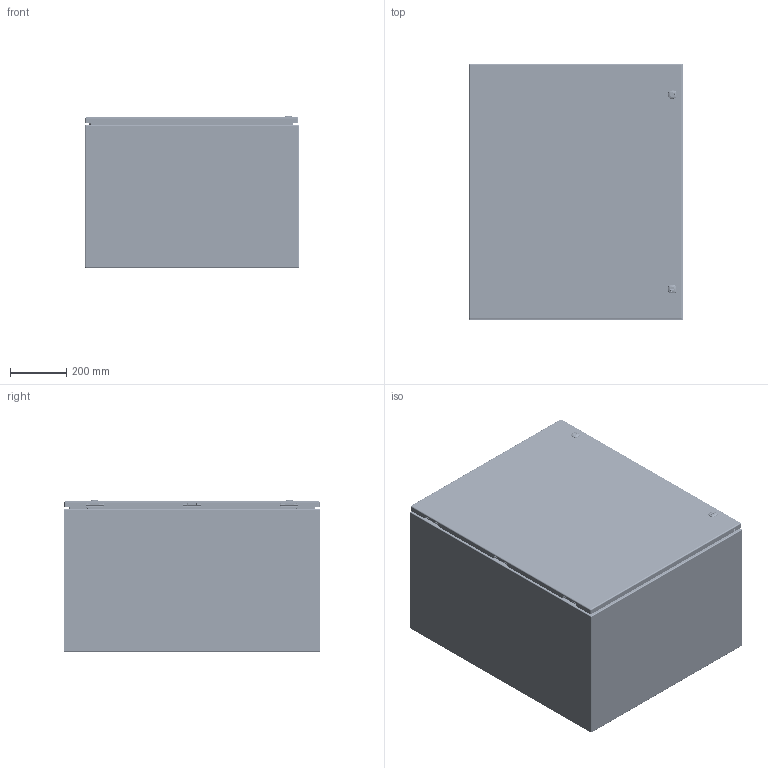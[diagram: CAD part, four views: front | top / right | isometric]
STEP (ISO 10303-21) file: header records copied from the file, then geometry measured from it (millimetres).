
FILE_DESCRIPTION(/* description */ ('5412ES 36" x 30" x 20" Assembly'),/* implementation_level */ '2;1');
FILE_NAME(/* name */ 'C:\Vault_Workspace\Inventor_Dwg\BoxCad\Result\5412ESB363020\e-mail\3D\5412ESB363020.stp',/* time_stamp */ '2022-03-19T06:24:33-04:00',/* author */ ('BoxCad'),/* organization */ (''),/* preprocessor_version */ 'ST-DEVELOPER v18.1',/* originating_system */ 'Autodesk Inventor 2020',/* authorisation */ '');
FILE_SCHEMA (('AUTOMOTIVE_DESIGN { 1 0 10303 214 3 1 1 }'));
Products named in the file (46): 5412ESB363020; 5412ESB363020B; 5412ESB363020B-P; STK-Q-16005; STUD_M6 x 16mm; STK-Q-07610; 881SP3630G; 881SP3630G-P; STK-Q-07310; 5412ESB363020C; 5412ESB363020C-P; 5412ESB363020G; STK-K-09800; STK-K-09800-2; STK-K-09800-3; STK-Q-33014; STK-Q-90398; STK-Q-40095; STK-Q-63410; STK-Q-16055; STK-Q-46020-36; STK-Q-07220-1; STK-Q-07220-2; STK-Q-07220-3; STK-Q-07220-4; STK-Q-07220-A; STK-Q-07220-B; STK-P-03820R; STK-S-00100; STK-A-880SCQ4-SL-1; STK-A-880SCQ4-SL-2; STK-Q-78110; STK-Q-78120; STK-Q-78145; STK-Q-03200; STK-Q-78125; STK-Q-78141; STK-Q-90390; STK-Q-78160; STK-Q-04050-07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
Assembly tree (97 placements, depth 4):
  5412ESB363020
    5412ESB363020B
      5412ESB363020B-P
      STK-Q-16005  x6
      STK-P-03820R
      STUD_M6 x 16mm
    STK-Q-07610  x6
    881SP3630G
      881SP3630G-P
    STK-Q-07310  x6
    5412ESB363020C
      5412ESB363020C-P
      5412ESB363020G
      STK-K-09800
        STK-Q-33014
        STK-Q-90398
        STK-Q-40095  x2
        STK-Q-63410  x2
      STK-K-09800-2
        STK-Q-33014
        STK-Q-90398
        STK-Q-40095  x2
        STK-Q-63410  x2
      STK-K-09800-3
        STK-Q-33014
        STK-Q-90398
        STK-Q-40095  x2
        STK-Q-63410  x2
      STK-Q-16055  x4
      STK-Q-46020-36  x2
      STK-Q-07220-1
        STK-Q-07220-A
        STK-Q-07220-B
      STK-Q-07220-2
        STK-Q-07220-A
        STK-Q-07220-B
      STK-Q-07220-3
        STK-Q-07220-A
        STK-Q-07220-B
      STK-Q-07220-4
        STK-Q-07220-A
        STK-Q-07220-B
      STK-P-03820R
      STK-S-00100
      STK-A-880SCQ4-SL-1
        STK-Q-78110
        STK-Q-78120
        STK-Q-78145
        STK-Q-03200
        STK-Q-78125
        STK-Q-78141
        STK-Q-90390
        STK-Q-78160
      STK-A-880SCQ4-SL-2
        STK-Q-78110
        STK-Q-78120
        STK-Q-78145
        STK-Q-03200
        STK-Q-78125
        STK-Q-78141
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Bounding box: 762.45 x 914.4 x 540.77 mm (x, y, z)
Volume: 7722196.3 mm3; surface area: 8212355.9 mm2
Topology: 78 solids, 78 shells, 12194 faces, 32790 edges, 20854 vertices
Faces by surface type: bspline 4333, plane 3345, cylinder 3218, torus 858, sphere 222, cone 218
Full cylindrical faces by diameter (mm): 0 x1, 0.75 x11, 0.762 x11, 1 x12, 1.1 x12, 3.2 x6, 4.191 x64, 4.5 x4, 4.521 x12, 4.75 x3, 4.85 x24, 4.95 x6, 5 x4, 5.1 x37, 5.156 x2, 5.6 x3, 5.9 x35, 6.015 x64, 6.65 x6, 6.8 x4, 6.85 x24, 7.3 x3, 7.366 x4, 7.9 x10, 8 x14, 8.382 x3, 9.5 x4, 9.6 x2, 9.906 x4, 10 x2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
Entity records: 158401 total; most frequent: CARTESIAN_POINT 64567, ORIENTED_EDGE 21358, DIRECTION 15777, EDGE_CURVE 10679, VERTEX_POINT 6775, AXIS2_PLACEMENT_3D 5818, EDGE_LOOP 4384, LINE 4141
